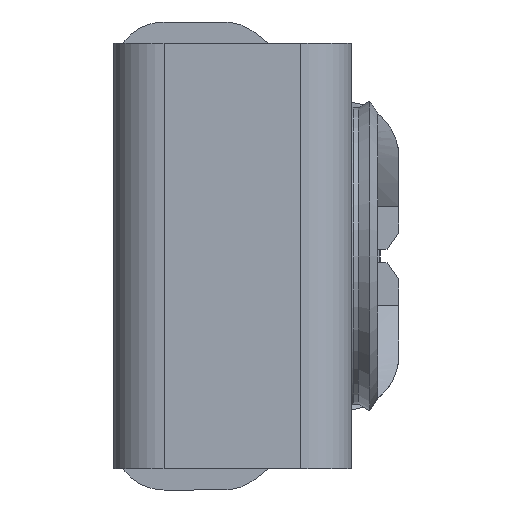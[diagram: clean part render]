
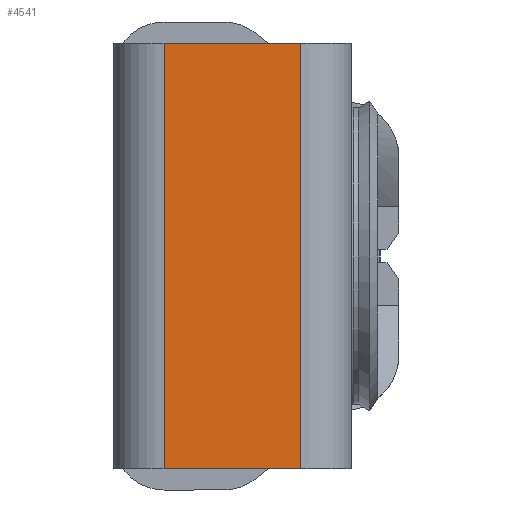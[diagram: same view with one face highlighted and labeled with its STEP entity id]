
A CAD part, left-side view. The second image highlights one B-rep face of the part: STEP entity #4541.
In plain terms, the highlighted planar face has unit normal (-1, 0, 0).
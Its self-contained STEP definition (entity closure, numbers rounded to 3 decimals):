
#350 = CARTESIAN_POINT ( 'NONE',  ( -2.12, 1.48, -1.25 ) ) ;
#966 = DIRECTION ( 'NONE',  ( 0., 1., 0. ) ) ;
#1030 = FACE_OUTER_BOUND ( 'NONE', #7143, .T. ) ;
#1471 = DIRECTION ( 'NONE',  ( 0., 0., 1. ) ) ;
#1717 = ORIENTED_EDGE ( 'NONE', *, *, #5526, .F. ) ;
#1787 = LINE ( 'NONE', #4531, #4298 ) ;
#2770 = DIRECTION ( 'NONE',  ( -1., 0., 0. ) ) ;
#2828 = LINE ( 'NONE', #3824, #9928 ) ;
#2845 = CARTESIAN_POINT ( 'NONE',  ( -2.12, 0.68, -1.375 ) ) ;
#2987 = VERTEX_POINT ( 'NONE', #350 ) ;
#3027 = LINE ( 'NONE', #2845, #5982 ) ;
#3346 = VERTEX_POINT ( 'NONE', #9001 ) ;
#3776 = DIRECTION ( 'NONE',  ( 0., 0., 1. ) ) ;
#3824 = CARTESIAN_POINT ( 'NONE',  ( -2.12, 0.38, -1.25 ) ) ;
#4081 = CARTESIAN_POINT ( 'NONE',  ( -2.12, 0.68, 1.25 ) ) ;
#4119 = AXIS2_PLACEMENT_3D ( 'NONE', #4821, #2770, #7485 ) ;
#4282 = VERTEX_POINT ( 'NONE', #4081 ) ;
#4298 = VECTOR ( 'NONE', #8306, 1000. ) ;
#4426 = CARTESIAN_POINT ( 'NONE',  ( -2.12, 1.48, 1.25 ) ) ;
#4531 = CARTESIAN_POINT ( 'NONE',  ( -2.12, 0.38, 1.25 ) ) ;
#4541 = ADVANCED_FACE ( 'NONE', ( #1030 ), #5685, .T. ) ;
#4821 = CARTESIAN_POINT ( 'NONE',  ( -2.12, 0.68, -1.375 ) ) ;
#5234 = ORIENTED_EDGE ( 'NONE', *, *, #10286, .T. ) ;
#5332 = CARTESIAN_POINT ( 'NONE',  ( -2.12, 1.48, -1.375 ) ) ;
#5526 = EDGE_CURVE ( 'NONE', #2987, #8248, #10866, .T. ) ;
#5647 = EDGE_CURVE ( 'NONE', #4282, #8248, #1787, .T. ) ;
#5685 = PLANE ( 'NONE',  #4119 ) ;
#5883 = VECTOR ( 'NONE', #1471, 1000. ) ;
#5982 = VECTOR ( 'NONE', #3776, 1000. ) ;
#7143 = EDGE_LOOP ( 'NONE', ( #11943, #5234, #11274, #1717 ) ) ;
#7485 = DIRECTION ( 'NONE',  ( 0., 0., 1. ) ) ;
#8248 = VERTEX_POINT ( 'NONE', #4426 ) ;
#8306 = DIRECTION ( 'NONE',  ( 0., 1., 0. ) ) ;
#8943 = EDGE_CURVE ( 'NONE', #3346, #2987, #2828, .T. ) ;
#9001 = CARTESIAN_POINT ( 'NONE',  ( -2.12, 0.68, -1.25 ) ) ;
#9928 = VECTOR ( 'NONE', #966, 1000. ) ;
#10286 = EDGE_CURVE ( 'NONE', #3346, #4282, #3027, .T. ) ;
#10866 = LINE ( 'NONE', #5332, #5883 ) ;
#11274 = ORIENTED_EDGE ( 'NONE', *, *, #5647, .T. ) ;
#11943 = ORIENTED_EDGE ( 'NONE', *, *, #8943, .F. ) ;
